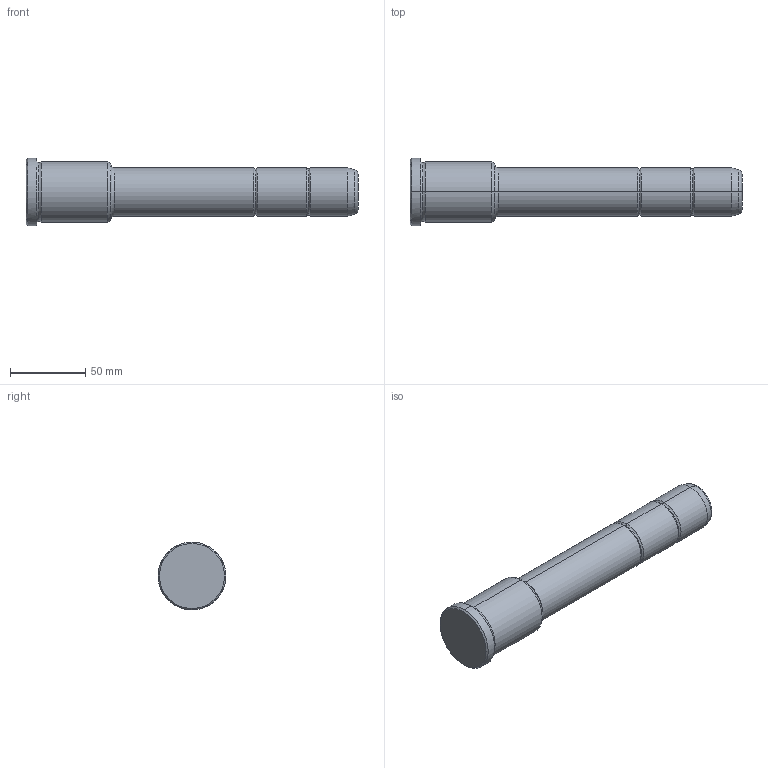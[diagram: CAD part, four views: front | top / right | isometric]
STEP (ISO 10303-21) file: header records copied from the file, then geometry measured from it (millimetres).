
FILE_DESCRIPTION(('CATIA V5 STEP Exchange'),'2;1');
FILE_NAME('C:\Users\Utente\Desktop\IO LAVORO\3D X SITO CF\X SITO\PLASTICA\351\351-32X56X220.stp','2021-09-07T12:33:24+00:00',('none'),('none'),'CATIA Version 5 Release 20 GA (IN-10)','CATIA V5 STEP AP203','none');
FILE_SCHEMA(('CONFIG_CONTROL_DESIGN'));
Length unit declared in the file: millimetre
Products named in the file (1): 351-32X56X220
Bounding box: 220 x 45 x 45 mm (x, y, z)
Volume: 203399.6 mm3; surface area: 26385.7 mm2
Topology: 1 solids, 1 shells, 36 faces, 102 edges, 70 vertices
Faces by surface type: torus 16, cylinder 10, cone 6, plane 4
Entity records: 1292 total; most frequent: CARTESIAN_POINT 321, ORIENTED_EDGE 204, DIRECTION 166, AXIS2_PLACEMENT_3D 115, EDGE_CURVE 102, CIRCLE 78, VERTEX_POINT 70, EDGE_LOOP 38
